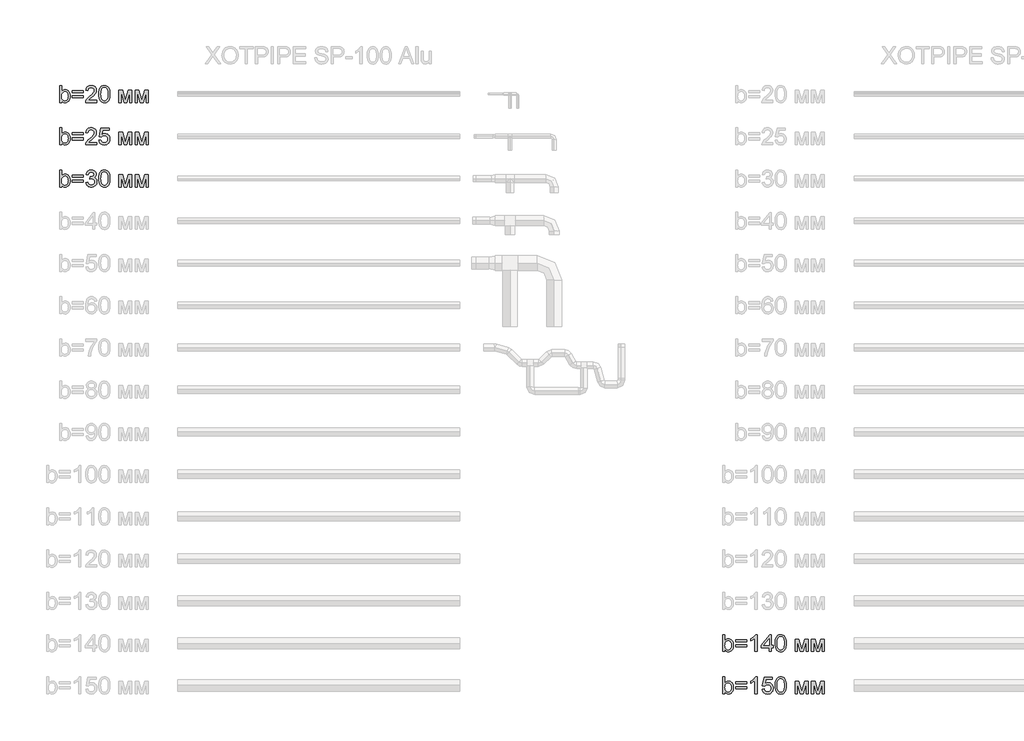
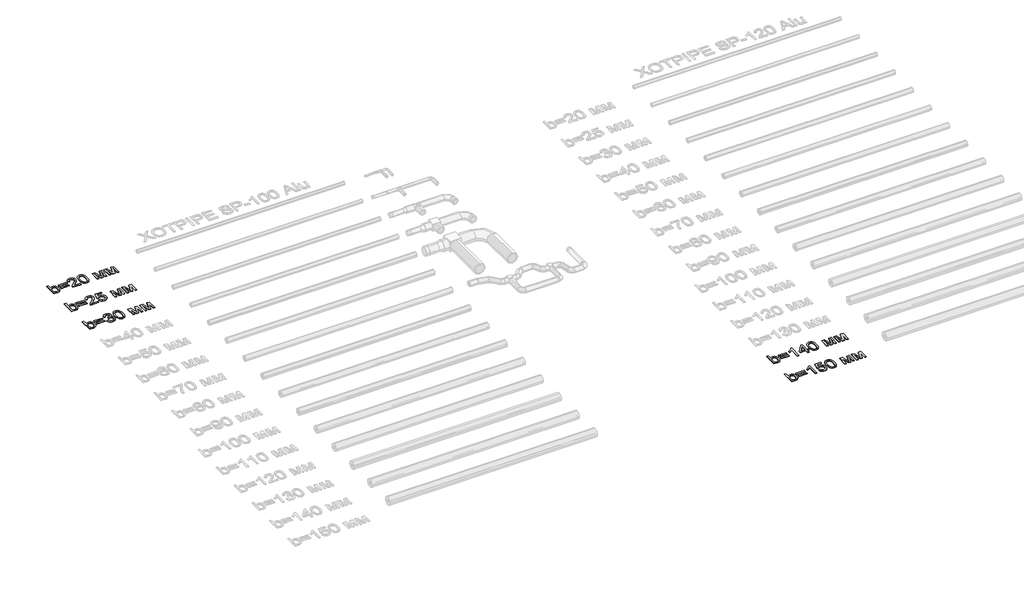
# One storey, part 59 of 86: 5 proxies.
"""IFC4 building model written with IfcOpenShell, lengths in millimetres."""

from ifc_helpers import new_model, si_unit, origin, origin_with_axes, place, context, project, spatial, polyline, outline, extrude, element, save

model = new_model("IFC4")

# Units and contexts
model_context = context("Model", 3, world=origin())
ifc_project = project(units=[si_unit("LENGTHUNIT", "METRE", prefix="MILLI")], contexts=[model_context])

# Site, building, storey
site = spatial("IfcSite", under=ifc_project)
building = spatial("IfcBuilding", under=site)
storey = spatial("IfcBuildingStorey", under=building, Name="Уровень 1", Elevation=0.0)

# Proxies
placement = place(None, origin())
element("IfcBuildingElementProxy", 1, Name="Текст модели 1", ObjectType="Текст модели 1", at=placement, inside=storey, context=model_context, shape_type="SweptSolid", body=[
    extrude(outline(polyline([(23159.6307988, 59169.2937088), (23084.2885662, 59169.2937088), (23084.2885662, 59772.0315697), (23159.6307988, 59772.0315697), (23159.6307988, 59548.5064694), (23184.4076512, 59580.3742473), (23212.3850769, 59603.1369457), (23243.563076, 59616.7945648), (23277.9416484, 59621.3471045), (23316.7531989, 59617.2452202), (23353.4310339, 59604.9395675), (23385.8782258, 59585.2026984), (23411.9978475, 59558.8071653), (23432.4704805, 59526.0104854), (23447.9767066, 59487.0701762), (23457.7439736, 59443.6049185), (23460.9997292, 59397.233393), (23457.6290105, 59343.7249568), (23447.5168541, 59296.6544555), (23430.6632602, 59256.0218892), (23407.0682288, 59221.8272577), (23378.7459136, 59194.7235517), (23347.7104688, 59175.3637617), (23313.9618943, 59163.7478877), (23277.50019, 59159.8759297), (23241.9903805, 59164.8699278), (23210.5088787, 59179.8519221), (23183.0556848, 59204.8219125), (23159.6307988, 59239.7798991), (23159.6307988, 59169.2937088)]), holes=[polyline([(23159.6307988, 59393.7017259), (23164.7811467, 59330.8674811), (23171.2190816, 59307.065516), (23180.2321905, 59288.3403224), (23198.4883345, 59265.0993774), (23219.7059286, 59248.4987024), (23243.8849727, 59238.5382973), (23271.0254669, 59235.2181623), (23293.5582391, 59237.6645776), (23314.5091188, 59245.0038234), (23333.8781058, 59257.2358997), (23351.6652003, 59274.3608066), (23366.5368299, 59296.3325588), (23377.1594225, 59323.105171), (23383.5329781, 59354.6786432), (23385.6574966, 59391.0529755), (23383.6203501, 59428.1170865), (23377.5089104, 59459.9940614), (23367.3231777, 59486.6839001), (23353.0631519, 59508.1866028), (23335.9152524, 59524.7320955), (23317.0658986, 59536.5503046), (23296.5150907, 59543.64123), (23274.2628285, 59546.0048719), (23251.7300563, 59543.5584566), (23230.7791767, 59536.2192108), (23211.4101896, 59523.9871344), (23193.6230951, 59506.8622276), (23178.7514655, 59485.1112046), (23168.1288729, 59459.00078), (23161.7553173, 59428.5309538), (23159.6307988, 59393.7017259)])]), origin_with_axes(), (0.0, 0.0, 1.0), 20.0),
    extrude(outline(polyline([(23931.8886831, 59517.7515346), (23536.3419619, 59517.7515346), (23536.3419619, 59593.0937672), (23931.8886831, 59593.0937672), (23931.8886831, 59517.7515346)])), origin_with_axes(), (0.0, 0.0, 1.0), 20.0),
    extrude(outline(polyline([(23931.8886831, 59338.8137322), (23536.3419619, 59338.8137322), (23536.3419619, 59414.1559648), (23931.8886831, 59414.1559648), (23931.8886831, 59338.8137322)])), origin_with_axes(), (0.0, 0.0, 1.0), 20.0),
    extrude(outline(polyline([(24402.7776369, 59244.6359414), (24402.7776369, 59169.2937088), (24007.2309157, 59169.2937088), (24008.8863847, 59195.8180007), (24015.3243196, 59221.2386465), (24033.9023603, 59261.8344247), (24061.0888398, 59301.2161923), (24100.4154251, 59342.4373698), (24155.4137833, 59388.5513779), (24236.7157043, 59460.7666136), (24285.4968568, 59514.0727147), (24299.724693, 59535.8513288), (24309.8874331, 59557.3356373), (24315.9850772, 59578.5256402), (24318.0176252, 59599.4213376), (24316.1000403, 59619.0800317), (24310.3472856, 59637.1476362), (24300.7593611, 59653.624151), (24287.3362668, 59668.5095763), (24270.8229638, 59680.8382216), (24251.964413, 59689.6443969), (24230.7606145, 59694.928102), (24207.2115683, 59696.6893371), (24182.4025262, 59694.9694888), (24160.2146434, 59689.8099438), (24140.6479198, 59681.2107021), (24123.7023554, 59669.1717638), (24109.9941525, 59654.0977991), (24100.1395136, 59636.3934781), (24094.1384385, 59616.0588008), (24091.9909274, 59593.0937672), (24016.6486948, 59602.5115463), (24023.1280164, 59641.4058703), (24034.9140358, 59675.3889696), (24052.006753, 59704.4608442), (24074.406168, 59728.6214943), (24101.597246, 59747.6134023), (24133.0649521, 59761.1790508), (24168.8092865, 59769.31844), (24208.830249, 59772.0315697), (24249.2098965, 59769.0149373), (24285.1473689, 59759.9650403), (24316.6426663, 59744.8818785), (24343.6957885, 59723.7654519), (24365.4238188, 59698.1792592), (24380.9438405, 59669.6867986), (24390.2558535, 59638.2880704), (24393.3598578, 59603.9830743), (24390.0121317, 59567.9490329), (24379.9689532, 59532.5403908), (24362.1450705, 59496.5247435), (24335.4552318, 59458.6696862), (24292.909679, 59413.4753831), (24227.5186544, 59355.4419984), (24140.8456563, 59282.9692453), (24106.85336, 59244.6359414), (24402.7776369, 59244.6359414)])), origin_with_axes(), (0.0, 0.0, 1.0), 20.0),
    extrude(outline(polyline([(24478.1198695, 59465.8065969), (24483.6564935, 59562.2836501), (24490.5772736, 59603.1967265), (24500.2663656, 59639.2261694), (24512.682383, 59670.6662845), (24527.7839389, 59697.8113772), (24545.5710333, 59720.6614476), (24566.0436664, 59739.2164957), (24589.2708158, 59753.5730906), (24615.3214596, 59763.8278012), (24644.1955977, 59769.9806276), (24675.8932301, 59772.0315697), (24722.3199379, 59767.1755274), (24763.8906034, 59752.6074004), (24798.6554519, 59728.8974058), (24824.664709, 59696.6157607), (24844.3096075, 59656.0383766), (24859.9813805, 59607.4411651), (24870.2452882, 59545.7289604), (24873.6665907, 59465.8065969), (24868.185149, 59369.8813667), (24861.3333468, 59329.106246), (24851.7408238, 59293.1227884), (24839.4213755, 59261.6688778), (24824.3887975, 59234.4823983), (24806.6430897, 59211.56335), (24786.1842523, 59192.9117329), (24762.9295116, 59178.458569), (24736.7960944, 59168.1348805), (24707.7840006, 59161.9406674), (24675.8932301, 59159.8759297), (24634.3961411, 59163.4627792), (24597.6079415, 59174.2233275), (24565.5286316, 59192.1575748), (24538.1582111, 59217.265521), (24511.8914367, 59262.6529621), (24493.1294549, 59319.2056218), (24481.8722659, 59386.9235001), (24478.1198695, 59465.8065969)]), holes=[polyline([(24553.4621021, 59465.9537497), (24555.6693941, 59400.456959), (24562.29127, 59347.440565), (24573.3277299, 59306.9045676), (24588.7787737, 59278.848967), (24607.467179, 59259.7604899), (24628.2157235, 59246.1258635), (24651.0244072, 59237.9450876), (24675.8932301, 59235.2181623), (24700.762053, 59237.9542847), (24723.5707367, 59246.1626517), (24744.3192812, 59259.8432634), (24763.0076866, 59278.9961198), (24778.4587304, 59307.0977057), (24789.4951902, 59347.624506), (24796.1170661, 59400.5765206), (24798.3243581, 59465.9537497), (24796.1906425, 59529.7168965), (24789.7894958, 59581.79979), (24779.120918, 59622.2024301), (24764.184909, 59650.9248169), (24745.8092033, 59670.9467945), (24724.8215355, 59685.248207), (24701.2219055, 59693.8290546), (24675.0103133, 59696.6893371), (24650.2702492, 59694.1693454), (24627.8478415, 59686.6093704), (24607.7430905, 59674.0094121), (24589.955996, 59656.3694704), (24573.9899175, 59625.0995008), (24562.5855756, 59582.9402242), (24555.7429705, 59529.8916405), (24553.4621021, 59465.9537497)])]), origin_with_axes(), (0.0, 0.0, 1.0), 20.0),
    extrude(outline(polyline([(25193.8710793, 59611.9293254), (25323.5126944, 59611.9293254), (25423.4294443, 59257.5853876), (25531.1452925, 59611.9293254), (25655.3422541, 59611.9293254), (25655.3422541, 59169.2937088), (25580.0000215, 59169.2937088), (25580.0000215, 59525.6977857), (25471.6955621, 59169.2937088), (25372.8088818, 59169.2937088), (25269.2133119, 59542.7675103), (25269.2133119, 59169.2937088), (25193.8710793, 59169.2937088), (25193.8710793, 59611.9293254)])), origin_with_axes(), (0.0, 0.0, 1.0), 20.0),
    extrude(outline(polyline([(25768.355603, 59611.9293254), (25897.9972181, 59611.9293254), (25997.913968, 59257.5853876), (26105.6298162, 59611.9293254), (26229.8267777, 59611.9293254), (26229.8267777, 59169.2937088), (26154.4845451, 59169.2937088), (26154.4845451, 59525.6977857), (26046.1800857, 59169.2937088), (25947.2934054, 59169.2937088), (25843.6978356, 59542.7675103), (25843.6978356, 59169.2937088), (25768.355603, 59169.2937088), (25768.355603, 59611.9293254)])), origin_with_axes(), (0.0, 0.0, 1.0), 20.0),
])
element("IfcBuildingElementProxy", 2, Name="Текст модели 1", ObjectType="Текст модели 1", at=placement, inside=storey, context=model_context, shape_type="SweptSolid", body=[
    extrude(outline(polyline([(23159.6307988, 57669.2937088), (23084.2885662, 57669.2937088), (23084.2885662, 58272.0315697), (23159.6307988, 58272.0315697), (23159.6307988, 58048.5064694), (23184.4076512, 58080.3742473), (23212.3850769, 58103.1369457), (23243.563076, 58116.7945648), (23277.9416484, 58121.3471045), (23316.7531989, 58117.2452202), (23353.4310339, 58104.9395675), (23385.8782258, 58085.2026984), (23411.9978475, 58058.8071653), (23432.4704805, 58026.0104854), (23447.9767066, 57987.0701762), (23457.7439736, 57943.6049185), (23460.9997292, 57897.233393), (23457.6290105, 57843.7249568), (23447.5168541, 57796.6544555), (23430.6632602, 57756.0218892), (23407.0682288, 57721.8272577), (23378.7459136, 57694.7235517), (23347.7104688, 57675.3637617), (23313.9618943, 57663.7478877), (23277.50019, 57659.8759297), (23241.9903805, 57664.8699278), (23210.5088787, 57679.8519221), (23183.0556848, 57704.8219125), (23159.6307988, 57739.7798991), (23159.6307988, 57669.2937088)]), holes=[polyline([(23159.6307988, 57893.7017259), (23164.7811467, 57830.8674811), (23171.2190816, 57807.065516), (23180.2321905, 57788.3403224), (23198.4883345, 57765.0993774), (23219.7059286, 57748.4987024), (23243.8849727, 57738.5382973), (23271.0254669, 57735.2181623), (23293.5582391, 57737.6645776), (23314.5091188, 57745.0038234), (23333.8781058, 57757.2358997), (23351.6652003, 57774.3608066), (23366.5368299, 57796.3325588), (23377.1594225, 57823.105171), (23383.5329781, 57854.6786432), (23385.6574966, 57891.0529755), (23383.6203501, 57928.1170865), (23377.5089104, 57959.9940614), (23367.3231777, 57986.6839001), (23353.0631519, 58008.1866028), (23335.9152524, 58024.7320955), (23317.0658986, 58036.5503046), (23296.5150907, 58043.64123), (23274.2628285, 58046.0048719), (23251.7300563, 58043.5584566), (23230.7791767, 58036.2192108), (23211.4101896, 58023.9871344), (23193.6230951, 58006.8622276), (23178.7514655, 57985.1112046), (23168.1288729, 57959.00078), (23161.7553173, 57928.5309538), (23159.6307988, 57893.7017259)])]), origin_with_axes(), (0.0, 0.0, 1.0), 20.0),
    extrude(outline(polyline([(23931.8886831, 58017.7515346), (23536.3419619, 58017.7515346), (23536.3419619, 58093.0937672), (23931.8886831, 58093.0937672), (23931.8886831, 58017.7515346)])), origin_with_axes(), (0.0, 0.0, 1.0), 20.0),
    extrude(outline(polyline([(23931.8886831, 57838.8137322), (23536.3419619, 57838.8137322), (23536.3419619, 57914.1559648), (23931.8886831, 57914.1559648), (23931.8886831, 57838.8137322)])), origin_with_axes(), (0.0, 0.0, 1.0), 20.0),
    extrude(outline(polyline([(24402.7776369, 57744.6359414), (24402.7776369, 57669.2937088), (24007.2309157, 57669.2937088), (24008.8863847, 57695.8180007), (24015.3243196, 57721.2386465), (24033.9023603, 57761.8344247), (24061.0888398, 57801.2161923), (24100.4154251, 57842.4373698), (24155.4137833, 57888.5513779), (24236.7157043, 57960.7666136), (24285.4968568, 58014.0727147), (24299.724693, 58035.8513288), (24309.8874331, 58057.3356373), (24315.9850772, 58078.5256402), (24318.0176252, 58099.4213376), (24316.1000403, 58119.0800317), (24310.3472856, 58137.1476362), (24300.7593611, 58153.624151), (24287.3362668, 58168.5095763), (24270.8229638, 58180.8382216), (24251.964413, 58189.6443969), (24230.7606145, 58194.928102), (24207.2115683, 58196.6893371), (24182.4025262, 58194.9694888), (24160.2146434, 58189.8099438), (24140.6479198, 58181.2107021), (24123.7023554, 58169.1717638), (24109.9941525, 58154.0977991), (24100.1395136, 58136.3934781), (24094.1384385, 58116.0588008), (24091.9909274, 58093.0937672), (24016.6486948, 58102.5115463), (24023.1280164, 58141.4058703), (24034.9140358, 58175.3889696), (24052.006753, 58204.4608442), (24074.406168, 58228.6214943), (24101.597246, 58247.6134023), (24133.0649521, 58261.1790508), (24168.8092865, 58269.31844), (24208.830249, 58272.0315697), (24249.2098965, 58269.0149373), (24285.1473689, 58259.9650403), (24316.6426662, 58244.8818785), (24343.6957885, 58223.7654519), (24365.4238188, 58198.1792592), (24380.9438405, 58169.6867986), (24390.2558535, 58138.2880704), (24393.3598578, 58103.9830743), (24390.0121317, 58067.9490329), (24379.9689532, 58032.5403908), (24362.1450705, 57996.5247435), (24335.4552318, 57958.6696862), (24292.909679, 57913.4753831), (24227.5186544, 57855.4419984), (24140.8456563, 57782.9692453), (24106.85336, 57744.6359414), (24402.7776369, 57744.6359414)])), origin_with_axes(), (0.0, 0.0, 1.0), 20.0),
    extrude(outline(polyline([(24478.1198695, 57829.3959531), (24553.4621021, 57838.8137322), (24559.0906966, 57814.5933013), (24567.2944651, 57793.5826409), (24578.0734076, 57775.7817508), (24591.427524, 57761.1906312), (24607.3292233, 57749.8276761), (24625.7509142, 57741.7112795), (24646.6925967, 57736.8414416), (24670.154271, 57735.2181623), (24698.8490666, 57737.4760381), (24724.1593479, 57744.2496653), (24746.0851148, 57755.539044), (24764.6263674, 57771.3441743), (24779.3692383, 57790.8833067), (24789.8998604, 57813.3746922), (24796.2182337, 57838.8183307), (24798.3243581, 57867.2142222), (24796.3515909, 57894.0512138), (24790.4332893, 57917.9083611), (24780.5694533, 57938.7856644), (24766.7600829, 57956.6831234), (24748.9591929, 57971.0397183), (24727.1207979, 57981.2944289), (24701.2448981, 57987.4472553), (24671.3314934, 57989.4981974), (24634.7824172, 57986.2240476), (24605.1863106, 57976.4015984), (24581.5498925, 57961.3552248), (24562.8798812, 57942.409302), (24487.5376486, 57951.8270811), (24553.4621021, 58262.6137906), (24845.4132535, 58262.6137906), (24845.4132535, 58187.271558), (24614.3833605, 58187.271558), (24582.1568977, 58021.2832018), (24608.7455689, 58040.3394891), (24635.9780336, 58053.951123), (24663.8542918, 58062.1181032), (24692.3743435, 58064.84043), (24729.065974, 58061.4651127), (24762.7685633, 58051.3391608), (24793.4821113, 58034.4625743), (24821.2066182, 58010.8353531), (24844.1578562, 57981.9014342), (24860.5515976, 57949.1047543), (24870.3878424, 57912.4453135), (24873.6665907, 57871.9231117), (24870.7143377, 57832.8908321), (24861.8575787, 57796.5808791), (24847.0963136, 57762.993253), (24826.4305425, 57732.1279536), (24795.1237848, 57700.5176931), (24758.5931026, 57677.9389357), (24716.8384962, 57664.3916812), (24669.8599654, 57659.8759297), (24630.979437, 57662.777599), (24595.8605021, 57671.4826067), (24564.5031605, 57685.9909529), (24536.9074123, 57706.3026375), (24513.9469773, 57731.4059852), (24496.4955752, 57760.2893203), (24484.5532059, 57792.952643), (24478.1198695, 57829.3959531)])), origin_with_axes(), (0.0, 0.0, 1.0), 20.0),
    extrude(outline(polyline([(25193.8710793, 58111.9293254), (25323.5126944, 58111.9293254), (25423.4294443, 57757.5853876), (25531.1452925, 58111.9293254), (25655.3422541, 58111.9293254), (25655.3422541, 57669.2937088), (25580.0000215, 57669.2937088), (25580.0000215, 58025.6977857), (25471.6955621, 57669.2937088), (25372.8088818, 57669.2937088), (25269.2133119, 58042.7675103), (25269.2133119, 57669.2937088), (25193.8710793, 57669.2937088), (25193.8710793, 58111.9293254)])), origin_with_axes(), (0.0, 0.0, 1.0), 20.0),
    extrude(outline(polyline([(25768.355603, 58111.9293254), (25897.9972181, 58111.9293254), (25997.913968, 57757.5853876), (26105.6298162, 58111.9293254), (26229.8267777, 58111.9293254), (26229.8267777, 57669.2937088), (26154.4845451, 57669.2937088), (26154.4845451, 58025.6977857), (26046.1800857, 57669.2937088), (25947.2934054, 57669.2937088), (25843.6978356, 58042.7675103), (25843.6978356, 57669.2937088), (25768.355603, 57669.2937088), (25768.355603, 58111.9293254)])), origin_with_axes(), (0.0, 0.0, 1.0), 20.0),
])
element("IfcBuildingElementProxy", 3, Name="Текст модели 1", ObjectType="Текст модели 1", at=placement, inside=storey, context=model_context, shape_type="SweptSolid", body=[
    extrude(outline(polyline([(23159.6307988, 56169.2937088), (23084.2885662, 56169.2937088), (23084.2885662, 56772.0315697), (23159.6307988, 56772.0315697), (23159.6307988, 56548.5064694), (23184.4076512, 56580.3742473), (23212.3850769, 56603.1369457), (23243.563076, 56616.7945648), (23277.9416484, 56621.3471045), (23316.7531989, 56617.2452202), (23353.4310339, 56604.9395675), (23385.8782258, 56585.2026984), (23411.9978475, 56558.8071653), (23432.4704805, 56526.0104854), (23447.9767066, 56487.0701762), (23457.7439736, 56443.6049185), (23460.9997292, 56397.233393), (23457.6290105, 56343.7249568), (23447.5168541, 56296.6544555), (23430.6632602, 56256.0218892), (23407.0682288, 56221.8272577), (23378.7459136, 56194.7235517), (23347.7104688, 56175.3637617), (23313.9618943, 56163.7478877), (23277.50019, 56159.8759297), (23241.9903805, 56164.8699278), (23210.5088787, 56179.8519221), (23183.0556848, 56204.8219125), (23159.6307988, 56239.7798991), (23159.6307988, 56169.2937088)]), holes=[polyline([(23159.6307988, 56393.7017259), (23164.7811467, 56330.8674811), (23171.2190816, 56307.065516), (23180.2321905, 56288.3403224), (23198.4883345, 56265.0993774), (23219.7059286, 56248.4987024), (23243.8849727, 56238.5382973), (23271.0254669, 56235.2181623), (23293.5582391, 56237.6645776), (23314.5091188, 56245.0038234), (23333.8781058, 56257.2358997), (23351.6652003, 56274.3608066), (23366.5368299, 56296.3325588), (23377.1594225, 56323.105171), (23383.5329781, 56354.6786432), (23385.6574966, 56391.0529755), (23383.6203501, 56428.1170865), (23377.5089104, 56459.9940614), (23367.3231777, 56486.6839001), (23353.0631519, 56508.1866028), (23335.9152524, 56524.7320955), (23317.0658986, 56536.5503046), (23296.5150907, 56543.64123), (23274.2628285, 56546.0048719), (23251.7300563, 56543.5584566), (23230.7791767, 56536.2192108), (23211.4101896, 56523.9871344), (23193.6230951, 56506.8622276), (23178.7514655, 56485.1112046), (23168.1288729, 56459.00078), (23161.7553173, 56428.5309538), (23159.6307988, 56393.7017259)])]), origin_with_axes(), (0.0, 0.0, 1.0), 20.0),
    extrude(outline(polyline([(23931.8886831, 56517.7515346), (23536.3419619, 56517.7515346), (23536.3419619, 56593.0937672), (23931.8886831, 56593.0937672), (23931.8886831, 56517.7515346)])), origin_with_axes(), (0.0, 0.0, 1.0), 20.0),
    extrude(outline(polyline([(23931.8886831, 56338.8137322), (23536.3419619, 56338.8137322), (23536.3419619, 56414.1559648), (23931.8886831, 56414.1559648), (23931.8886831, 56338.8137322)])), origin_with_axes(), (0.0, 0.0, 1.0), 20.0),
    extrude(outline(polyline([(24016.6486948, 56329.3959531), (24091.9909274, 56338.8137322), (24108.8583168, 56291.4673194), (24120.230469, 56273.5606633), (24133.5615928, 56259.498374), (24149.1551909, 56248.8757814), (24167.3147659, 56241.2882153), (24188.0403178, 56236.7356756), (24211.3318466, 56235.2181623), (24238.6286906, 56237.3058927), (24262.9824787, 56243.5690836), (24284.3932108, 56254.0077352), (24302.860887, 56268.6218475), (24317.7325167, 56286.3169715), (24328.3551093, 56305.9986582), (24334.7286648, 56327.6669077), (24336.8531834, 56351.32172), (24334.7470589, 56373.8498937), (24328.4286857, 56394.3455193), (24317.8980636, 56412.808597), (24303.1551926, 56429.2391266), (24285.165763, 56442.7266002), (24264.8954651, 56452.36051), (24242.3442988, 56458.1408558), (24217.5122641, 56460.0676378), (24193.710299, 56458.0074986), (24164.6844096, 56451.8270811), (24173.0721191, 56527.1693137), (24185.1386485, 56526.2863969), (24230.2777694, 56531.6942622), (24270.6344242, 56547.9178582), (24287.2442963, 56560.1867228), (24299.1084907, 56575.3618551), (24306.2270073, 56593.4432551), (24308.5998461, 56614.430923), (24306.8799978, 56631.4684579), (24301.7204528, 56646.9700854), (24293.1212112, 56660.9358057), (24281.0822729, 56673.3656186), (24266.3302049, 56683.5697454), (24249.5915741, 56690.8584075), (24210.1546242, 56696.6893371), (24189.4980502, 56695.2178091), (24170.6440979, 56690.8032252), (24153.5927675, 56683.4455853), (24138.3440588, 56673.1448894), (24125.2750509, 56659.9011376), (24114.7628229, 56643.7143298), (24106.8073747, 56624.584466), (24101.4087064, 56602.5115463), (24026.0664738, 56611.9293254), (24034.9968093, 56647.8989875), (24048.2497581, 56679.5828243), (24065.8253205, 56706.9808359), (24087.7234962, 56730.0930222), (24113.2545067, 56748.4411368), (24141.7285731, 56761.5469328), (24173.1456955, 56769.4104105), (24207.5058739, 56772.0315697), (24254.8706807, 56766.8628277), (24298.3727267, 56751.3566016), (24335.0505616, 56726.8924489), (24361.9427354, 56694.8499271), (24378.4422429, 56657.9329689), (24383.9420787, 56618.8455069), (24378.7181544, 56582.4251894), (24363.0463814, 56549.3893862), (24337.147489, 56521.2464136), (24301.2422062, 56499.5045877), (24326.3501524, 56491.6503071), (24348.404678, 56480.4483003), (24367.4057831, 56465.8985674), (24383.3534676, 56448.0011083), (24395.97182, 56427.1973815), (24404.9849289, 56403.9288453), (24410.3927942, 56378.1954998), (24412.195416, 56349.9973448), (24408.5901724, 56311.7744055), (24397.7744418, 56276.5680986), (24379.748224, 56244.378424), (24354.5115191, 56215.2053818), (24323.7657814, 56190.9987465), (24289.212465, 56173.7082927), (24250.8515699, 56163.3340205), (24208.6830962, 56159.8759297), (24170.5705215, 56162.8281827), (24135.8424612, 56171.6849418), (24104.4989152, 56186.4462068), (24076.5398836, 56207.1119779), (24053.0966034, 56232.4682444), (24035.3003119, 56261.3009958), (24023.151009, 56293.610232), (24016.6486948, 56329.3959531)])), origin_with_axes(), (0.0, 0.0, 1.0), 20.0),
    extrude(outline(polyline([(24478.1198695, 56465.8065969), (24483.6564935, 56562.2836501), (24490.5772736, 56603.1967265), (24500.2663656, 56639.2261694), (24512.682383, 56670.6662845), (24527.7839389, 56697.8113772), (24545.5710333, 56720.6614476), (24566.0436664, 56739.2164957), (24589.2708158, 56753.5730906), (24615.3214596, 56763.8278012), (24644.1955977, 56769.9806276), (24675.8932301, 56772.0315697), (24722.3199379, 56767.1755274), (24763.8906034, 56752.6074004), (24798.6554519, 56728.8974058), (24824.664709, 56696.6157607), (24844.3096075, 56656.0383766), (24859.9813805, 56607.4411651), (24870.2452882, 56545.7289604), (24873.6665907, 56465.8065969), (24868.185149, 56369.8813667), (24861.3333468, 56329.106246), (24851.7408238, 56293.1227884), (24839.4213755, 56261.6688778), (24824.3887975, 56234.4823983), (24806.6430897, 56211.56335), (24786.1842523, 56192.9117329), (24762.9295116, 56178.458569), (24736.7960944, 56168.1348805), (24707.7840006, 56161.9406674), (24675.8932301, 56159.8759297), (24634.3961411, 56163.4627792), (24597.6079415, 56174.2233275), (24565.5286316, 56192.1575748), (24538.1582111, 56217.265521), (24511.8914367, 56262.6529621), (24493.1294549, 56319.2056218), (24481.8722659, 56386.9235001), (24478.1198695, 56465.8065969)]), holes=[polyline([(24553.4621021, 56465.9537497), (24555.6693941, 56400.456959), (24562.29127, 56347.440565), (24573.3277299, 56306.9045676), (24588.7787737, 56278.848967), (24607.467179, 56259.7604899), (24628.2157235, 56246.1258635), (24651.0244072, 56237.9450876), (24675.8932301, 56235.2181623), (24700.762053, 56237.9542847), (24723.5707367, 56246.1626517), (24744.3192812, 56259.8432634), (24763.0076866, 56278.9961198), (24778.4587304, 56307.0977057), (24789.4951902, 56347.624506), (24796.1170661, 56400.5765206), (24798.3243581, 56465.9537497), (24796.1906425, 56529.7168965), (24789.7894958, 56581.79979), (24779.120918, 56622.2024301), (24764.184909, 56650.9248169), (24745.8092033, 56670.9467945), (24724.8215355, 56685.248207), (24701.2219055, 56693.8290546), (24675.0103133, 56696.6893371), (24650.2702492, 56694.1693454), (24627.8478415, 56686.6093704), (24607.7430905, 56674.0094121), (24589.955996, 56656.3694704), (24573.9899175, 56625.0995008), (24562.5855756, 56582.9402242), (24555.7429705, 56529.8916405), (24553.4621021, 56465.9537497)])]), origin_with_axes(), (0.0, 0.0, 1.0), 20.0),
    extrude(outline(polyline([(25193.8710793, 56611.9293254), (25323.5126944, 56611.9293254), (25423.4294443, 56257.5853876), (25531.1452925, 56611.9293254), (25655.3422541, 56611.9293254), (25655.3422541, 56169.2937088), (25580.0000215, 56169.2937088), (25580.0000215, 56525.6977857), (25471.6955621, 56169.2937088), (25372.8088818, 56169.2937088), (25269.2133119, 56542.7675103), (25269.2133119, 56169.2937088), (25193.8710793, 56169.2937088), (25193.8710793, 56611.9293254)])), origin_with_axes(), (0.0, 0.0, 1.0), 20.0),
    extrude(outline(polyline([(25768.355603, 56611.9293254), (25897.9972181, 56611.9293254), (25997.913968, 56257.5853876), (26105.6298162, 56611.9293254), (26229.8267777, 56611.9293254), (26229.8267777, 56169.2937088), (26154.4845451, 56169.2937088), (26154.4845451, 56525.6977857), (26046.1800857, 56169.2937088), (25947.2934054, 56169.2937088), (25843.6978356, 56542.7675103), (25843.6978356, 56169.2937088), (25768.355603, 56169.2937088), (25768.355603, 56611.9293254)])), origin_with_axes(), (0.0, 0.0, 1.0), 20.0),
])
element("IfcBuildingElementProxy", 4, Name="Текст модели 1", ObjectType="Текст модели 1", at=placement, inside=storey, context=model_context, shape_type="SweptSolid", body=[
    extrude(outline(polyline([(46698.159624, 39669.2937088), (46622.8173914, 39669.2937088), (46622.8173914, 40272.0315697), (46698.159624, 40272.0315697), (46698.159624, 40048.5064694), (46722.9364764, 40080.3742473), (46750.9139022, 40103.1369457), (46782.0919012, 40116.7945648), (46816.4704737, 40121.3471045), (46855.2820242, 40117.2452202), (46891.9598591, 40104.9395675), (46924.4070511, 40085.2026984), (46950.5266727, 40058.8071653), (46970.9993058, 40026.0104854), (46986.5055319, 39987.0701762), (46996.2727988, 39943.6049185), (46999.5285545, 39897.233393), (46996.1578357, 39843.7249568), (46986.0456794, 39796.6544555), (46969.1920855, 39756.0218892), (46945.597054, 39721.8272577), (46917.2747389, 39694.7235517), (46886.2392941, 39675.3637617), (46852.4907195, 39663.7478877), (46816.0290153, 39659.8759297), (46780.5192057, 39664.8699278), (46749.037704, 39679.8519221), (46721.5845101, 39704.8219125), (46698.159624, 39739.7798991), (46698.159624, 39669.2937088)]), holes=[polyline([(46698.159624, 39893.7017259), (46703.309972, 39830.8674811), (46709.7479069, 39807.065516), (46718.7610158, 39788.3403224), (46737.0171598, 39765.0993774), (46758.2347539, 39748.4987024), (46782.413798, 39738.5382973), (46809.5542922, 39735.2181623), (46832.0870644, 39737.6645776), (46853.037944, 39745.0038234), (46872.4069311, 39757.2358997), (46890.1940255, 39774.3608066), (46905.0656552, 39796.3325588), (46915.6882478, 39823.105171), (46922.0618034, 39854.6786432), (46924.1863219, 39891.0529755), (46922.1491753, 39928.1170865), (46916.0377357, 39959.9940614), (46905.8520029, 39986.6839001), (46891.5919771, 40008.1866028), (46874.4440776, 40024.7320955), (46855.5947239, 40036.5503046), (46835.0439159, 40043.64123), (46812.7916537, 40046.0048719), (46790.2588815, 40043.5584566), (46769.3080019, 40036.2192108), (46749.9390149, 40023.9871344), (46732.1519204, 40006.8622276), (46717.2802907, 39985.1112046), (46706.6576981, 39959.00078), (46700.2841426, 39928.5309538), (46698.159624, 39893.7017259)])]), origin_with_axes(), (0.0, 0.0, 1.0), 20.0),
    extrude(outline(polyline([(47470.4175083, 40017.7515346), (47074.8707871, 40017.7515346), (47074.8707871, 40093.0937672), (47470.4175083, 40093.0937672), (47470.4175083, 40017.7515346)])), origin_with_axes(), (0.0, 0.0, 1.0), 20.0),
    extrude(outline(polyline([(47470.4175083, 39838.8137322), (47074.8707871, 39838.8137322), (47074.8707871, 39914.1559648), (47470.4175083, 39914.1559648), (47470.4175083, 39838.8137322)])), origin_with_axes(), (0.0, 0.0, 1.0), 20.0),
    extrude(outline(polyline([(47837.7108923, 39669.2937088), (47762.3686597, 39669.2937088), (47762.3686597, 40139.0054402), (47730.9147491, 40113.5664003), (47690.9995526, 40088.1641485), (47649.0977934, 40065.9624701), (47611.6841945, 40050.1251502), (47611.6841945, 40121.3471045), (47670.8580134, 40153.5367791), (47722.1223694, 40191.8332947), (47762.5342066, 40232.5578316), (47789.1504689, 40272.0315697), (47837.7108923, 40272.0315697), (47837.7108923, 39669.2937088)])), origin_with_axes(), (0.0, 0.0, 1.0), 20.0),
    extrude(outline(polyline([(48261.5109507, 39669.2937088), (48261.5109507, 39810.5603949), (47988.3953575, 39810.5603949), (47988.3953575, 39885.9026276), (48280.3465089, 40262.6137906), (48336.8531834, 40262.6137906), (48336.8531834, 39885.9026276), (48412.195416, 39885.9026276), (48412.195416, 39810.5603949), (48336.8531834, 39810.5603949), (48336.8531834, 39669.2937088), (48261.5109507, 39669.2937088)]), holes=[polyline([(48261.5109507, 39885.9026276), (48261.5109507, 40118.6983541), (48081.1016203, 39885.9026276), (48261.5109507, 39885.9026276)])]), origin_with_axes(), (0.0, 0.0, 1.0), 20.0),
    extrude(outline(polyline([(48478.1198695, 39965.8065969), (48483.6564935, 40062.2836501), (48490.5772736, 40103.1967265), (48500.2663656, 40139.2261694), (48512.682383, 40170.6662845), (48527.7839389, 40197.8113772), (48545.5710333, 40220.6614476), (48566.0436664, 40239.2164957), (48589.2708158, 40253.5730906), (48615.3214596, 40263.8278012), (48644.1955977, 40269.9806276), (48675.8932301, 40272.0315697), (48722.3199379, 40267.1755274), (48763.8906034, 40252.6074004), (48798.6554519, 40228.8974058), (48824.664709, 40196.6157607), (48844.3096075, 40156.0383766), (48859.9813805, 40107.4411651), (48870.2452882, 40045.7289604), (48873.6665907, 39965.8065969), (48868.185149, 39869.8813667), (48861.3333468, 39829.106246), (48851.7408238, 39793.1227884), (48839.4213755, 39761.6688778), (48824.3887975, 39734.4823983), (48806.6430897, 39711.56335), (48786.1842523, 39692.9117329), (48762.9295116, 39678.458569), (48736.7960944, 39668.1348805), (48707.7840006, 39661.9406674), (48675.8932301, 39659.8759297), (48634.3961411, 39663.4627792), (48597.6079415, 39674.2233275), (48565.5286316, 39692.1575748), (48538.1582111, 39717.265521), (48511.8914367, 39762.6529621), (48493.1294549, 39819.2056218), (48481.8722659, 39886.9235001), (48478.1198695, 39965.8065969)]), holes=[polyline([(48553.4621021, 39965.9537497), (48555.6693941, 39900.456959), (48562.29127, 39847.440565), (48573.3277299, 39806.9045676), (48588.7787737, 39778.848967), (48607.467179, 39759.7604899), (48628.2157235, 39746.1258635), (48651.0244072, 39737.9450876), (48675.8932301, 39735.2181623), (48700.762053, 39737.9542847), (48723.5707367, 39746.1626517), (48744.3192812, 39759.8432634), (48763.0076866, 39778.9961198), (48778.4587304, 39807.0977057), (48789.4951902, 39847.624506), (48796.1170661, 39900.5765206), (48798.3243581, 39965.9537497), (48796.1906425, 40029.7168965), (48789.7894958, 40081.79979), (48779.120918, 40122.2024301), (48764.184909, 40150.9248169), (48745.8092033, 40170.9467945), (48724.8215355, 40185.248207), (48701.2219055, 40193.8290546), (48675.0103133, 40196.6893371), (48650.2702492, 40194.1693454), (48627.8478415, 40186.6093704), (48607.7430905, 40174.0094121), (48589.955996, 40156.3694704), (48573.9899175, 40125.0995008), (48562.5855756, 40082.9402242), (48555.7429705, 40029.8916405), (48553.4621021, 39965.9537497)])]), origin_with_axes(), (0.0, 0.0, 1.0), 20.0),
    extrude(outline(polyline([(49193.8710793, 40111.9293254), (49323.5126944, 40111.9293254), (49423.4294443, 39757.5853876), (49531.1452925, 40111.9293254), (49655.3422541, 40111.9293254), (49655.3422541, 39669.2937088), (49580.0000215, 39669.2937088), (49580.0000215, 40025.6977857), (49471.6955621, 39669.2937088), (49372.8088818, 39669.2937088), (49269.2133119, 40042.7675103), (49269.2133119, 39669.2937088), (49193.8710793, 39669.2937088), (49193.8710793, 40111.9293254)])), origin_with_axes(), (0.0, 0.0, 1.0), 20.0),
    extrude(outline(polyline([(49768.355603, 40111.9293254), (49897.9972181, 40111.9293254), (49997.913968, 39757.5853876), (50105.6298162, 40111.9293254), (50229.8267777, 40111.9293254), (50229.8267777, 39669.2937088), (50154.4845451, 39669.2937088), (50154.4845451, 40025.6977857), (50046.1800857, 39669.2937088), (49947.2934054, 39669.2937088), (49843.6978356, 40042.7675103), (49843.6978356, 39669.2937088), (49768.355603, 39669.2937088), (49768.355603, 40111.9293254)])), origin_with_axes(), (0.0, 0.0, 1.0), 20.0),
])
element("IfcBuildingElementProxy", 5, Name="Текст модели 1", ObjectType="Текст модели 1", at=placement, inside=storey, context=model_context, shape_type="SweptSolid", body=[
    extrude(outline(polyline([(46698.159624, 38169.2937088), (46622.8173914, 38169.2937088), (46622.8173914, 38772.0315697), (46698.159624, 38772.0315697), (46698.159624, 38548.5064694), (46722.9364764, 38580.3742473), (46750.9139022, 38603.1369457), (46782.0919012, 38616.7945648), (46816.4704737, 38621.3471045), (46855.2820242, 38617.2452202), (46891.9598591, 38604.9395675), (46924.4070511, 38585.2026984), (46950.5266727, 38558.8071653), (46970.9993058, 38526.0104854), (46986.5055319, 38487.0701762), (46996.2727988, 38443.6049185), (46999.5285545, 38397.233393), (46996.1578357, 38343.7249568), (46986.0456794, 38296.6544555), (46969.1920855, 38256.0218892), (46945.597054, 38221.8272577), (46917.2747389, 38194.7235517), (46886.2392941, 38175.3637617), (46852.4907195, 38163.7478877), (46816.0290153, 38159.8759297), (46780.5192057, 38164.8699278), (46749.037704, 38179.8519221), (46721.5845101, 38204.8219125), (46698.159624, 38239.7798991), (46698.159624, 38169.2937088)]), holes=[polyline([(46698.159624, 38393.7017259), (46703.309972, 38330.8674811), (46709.7479069, 38307.065516), (46718.7610158, 38288.3403224), (46737.0171598, 38265.0993774), (46758.2347539, 38248.4987024), (46782.413798, 38238.5382973), (46809.5542922, 38235.2181623), (46832.0870644, 38237.6645776), (46853.037944, 38245.0038234), (46872.4069311, 38257.2358997), (46890.1940255, 38274.3608066), (46905.0656552, 38296.3325588), (46915.6882478, 38323.105171), (46922.0618034, 38354.6786432), (46924.1863219, 38391.0529755), (46922.1491753, 38428.1170865), (46916.0377357, 38459.9940614), (46905.8520029, 38486.6839001), (46891.5919771, 38508.1866028), (46874.4440776, 38524.7320955), (46855.5947239, 38536.5503046), (46835.0439159, 38543.64123), (46812.7916537, 38546.0048719), (46790.2588815, 38543.5584566), (46769.3080019, 38536.2192108), (46749.9390149, 38523.9871344), (46732.1519204, 38506.8622276), (46717.2802907, 38485.1112046), (46706.6576981, 38459.00078), (46700.2841426, 38428.5309538), (46698.159624, 38393.7017259)])]), origin_with_axes(), (0.0, 0.0, 1.0), 20.0),
    extrude(outline(polyline([(47470.4175083, 38517.7515346), (47074.8707871, 38517.7515346), (47074.8707871, 38593.0937672), (47470.4175083, 38593.0937672), (47470.4175083, 38517.7515346)])), origin_with_axes(), (0.0, 0.0, 1.0), 20.0),
    extrude(outline(polyline([(47470.4175083, 38338.8137322), (47074.8707871, 38338.8137322), (47074.8707871, 38414.1559648), (47470.4175083, 38414.1559648), (47470.4175083, 38338.8137322)])), origin_with_axes(), (0.0, 0.0, 1.0), 20.0),
    extrude(outline(polyline([(47837.7108923, 38169.2937088), (47762.3686597, 38169.2937088), (47762.3686597, 38639.0054402), (47730.9147491, 38613.5664003), (47690.9995526, 38588.1641485), (47649.0977934, 38565.9624701), (47611.6841945, 38550.1251502), (47611.6841945, 38621.3471045), (47670.8580134, 38653.5367791), (47722.1223694, 38691.8332947), (47762.5342066, 38732.5578316), (47789.1504689, 38772.0315697), (47837.7108923, 38772.0315697), (47837.7108923, 38169.2937088)])), origin_with_axes(), (0.0, 0.0, 1.0), 20.0),
    extrude(outline(polyline([(48016.6486948, 38329.3959531), (48091.9909274, 38338.8137322), (48097.6195219, 38314.5933013), (48105.8232904, 38293.5826409), (48116.6022328, 38275.7817508), (48129.9563493, 38261.1906312), (48145.8580485, 38249.8276761), (48164.2797394, 38241.7112795), (48185.221422, 38236.8414416), (48208.6830962, 38235.2181623), (48237.3778919, 38237.4760381), (48262.6881731, 38244.2496653), (48284.61394, 38255.539044), (48303.1551926, 38271.3441743), (48317.8980636, 38290.8833067), (48328.4286857, 38313.3746922), (48334.7470589, 38338.8183307), (48336.8531834, 38367.2142222), (48334.8804162, 38394.0512138), (48328.9621146, 38417.9083611), (48319.0982786, 38438.7856644), (48305.2889082, 38456.6831234), (48287.4880181, 38471.0397183), (48265.6496232, 38481.2944289), (48239.7737234, 38487.4472553), (48209.8603186, 38489.4981974), (48173.3112424, 38486.2240476), (48143.7151359, 38476.4015984), (48120.0787177, 38461.3552248), (48101.4087064, 38442.409302), (48026.0664738, 38451.8270811), (48091.9909274, 38762.6137906), (48383.9420787, 38762.6137906), (48383.9420787, 38687.271558), (48152.9121858, 38687.271558), (48120.685723, 38521.2832018), (48147.2743942, 38540.3394891), (48174.5068589, 38553.951123), (48202.3831171, 38562.1181032), (48230.9031687, 38564.84043), (48267.5947992, 38561.4651127), (48301.2973885, 38551.3391608), (48332.0109366, 38534.4625743), (48359.7354435, 38510.8353531), (48382.6866814, 38481.9014342), (48399.0804228, 38449.1047543), (48408.9166677, 38412.4453135), (48412.195416, 38371.9231117), (48409.243163, 38332.8908321), (48400.3864039, 38296.5808791), (48385.6251389, 38262.993253), (48364.9593678, 38232.1279536), (48333.65261, 38200.5176931), (48297.1219279, 38177.9389357), (48255.3673214, 38164.3916812), (48208.3887906, 38159.8759297), (48169.5082623, 38162.777599), (48134.3893273, 38171.4826067), (48103.0319858, 38185.9909529), (48075.4362376, 38206.3026375), (48052.4758026, 38231.4059852), (48035.0244004, 38260.2893203), (48023.0820311, 38292.952643), (48016.6486948, 38329.3959531)])), origin_with_axes(), (0.0, 0.0, 1.0), 20.0),
    extrude(outline(polyline([(48478.1198695, 38465.8065969), (48483.6564935, 38562.2836501), (48490.5772736, 38603.1967265), (48500.2663656, 38639.2261694), (48512.682383, 38670.6662845), (48527.7839389, 38697.8113772), (48545.5710333, 38720.6614476), (48566.0436664, 38739.2164957), (48589.2708158, 38753.5730906), (48615.3214596, 38763.8278012), (48644.1955977, 38769.9806276), (48675.8932301, 38772.0315697), (48722.3199379, 38767.1755274), (48763.8906034, 38752.6074004), (48798.6554519, 38728.8974058), (48824.664709, 38696.6157607), (48844.3096075, 38656.0383766), (48859.9813805, 38607.4411651), (48870.2452882, 38545.7289604), (48873.6665907, 38465.8065969), (48868.185149, 38369.8813667), (48861.3333468, 38329.106246), (48851.7408238, 38293.1227884), (48839.4213755, 38261.6688778), (48824.3887975, 38234.4823983), (48806.6430897, 38211.56335), (48786.1842523, 38192.9117329), (48762.9295116, 38178.458569), (48736.7960944, 38168.1348805), (48707.7840006, 38161.9406674), (48675.8932301, 38159.8759297), (48634.3961411, 38163.4627792), (48597.6079415, 38174.2233275), (48565.5286316, 38192.1575748), (48538.1582111, 38217.265521), (48511.8914367, 38262.6529621), (48493.1294549, 38319.2056218), (48481.8722659, 38386.9235001), (48478.1198695, 38465.8065969)]), holes=[polyline([(48553.4621021, 38465.9537497), (48555.6693941, 38400.456959), (48562.29127, 38347.440565), (48573.3277299, 38306.9045676), (48588.7787737, 38278.848967), (48607.467179, 38259.7604899), (48628.2157235, 38246.1258635), (48651.0244072, 38237.9450876), (48675.8932301, 38235.2181623), (48700.762053, 38237.9542847), (48723.5707367, 38246.1626517), (48744.3192812, 38259.8432634), (48763.0076866, 38278.9961198), (48778.4587304, 38307.0977057), (48789.4951902, 38347.624506), (48796.1170661, 38400.5765206), (48798.3243581, 38465.9537497), (48796.1906425, 38529.7168965), (48789.7894958, 38581.79979), (48779.120918, 38622.2024301), (48764.184909, 38650.9248169), (48745.8092033, 38670.9467945), (48724.8215355, 38685.248207), (48701.2219055, 38693.8290546), (48675.0103133, 38696.6893371), (48650.2702492, 38694.1693454), (48627.8478415, 38686.6093704), (48607.7430905, 38674.0094121), (48589.955996, 38656.3694704), (48573.9899175, 38625.0995008), (48562.5855756, 38582.9402242), (48555.7429705, 38529.8916405), (48553.4621021, 38465.9537497)])]), origin_with_axes(), (0.0, 0.0, 1.0), 20.0),
    extrude(outline(polyline([(49193.8710793, 38611.9293254), (49323.5126944, 38611.9293254), (49423.4294443, 38257.5853876), (49531.1452925, 38611.9293254), (49655.3422541, 38611.9293254), (49655.3422541, 38169.2937088), (49580.0000215, 38169.2937088), (49580.0000215, 38525.6977857), (49471.6955621, 38169.2937088), (49372.8088818, 38169.2937088), (49269.2133119, 38542.7675103), (49269.2133119, 38169.2937088), (49193.8710793, 38169.2937088), (49193.8710793, 38611.9293254)])), origin_with_axes(), (0.0, 0.0, 1.0), 20.0),
    extrude(outline(polyline([(49768.355603, 38611.9293254), (49897.9972181, 38611.9293254), (49997.913968, 38257.5853876), (50105.6298162, 38611.9293254), (50229.8267777, 38611.9293254), (50229.8267777, 38169.2937088), (50154.4845451, 38169.2937088), (50154.4845451, 38525.6977857), (50046.1800857, 38169.2937088), (49947.2934054, 38169.2937088), (49843.6978356, 38542.7675103), (49843.6978356, 38169.2937088), (49768.355603, 38169.2937088), (49768.355603, 38611.9293254)])), origin_with_axes(), (0.0, 0.0, 1.0), 20.0),
])

save(model, "model.ifc")
